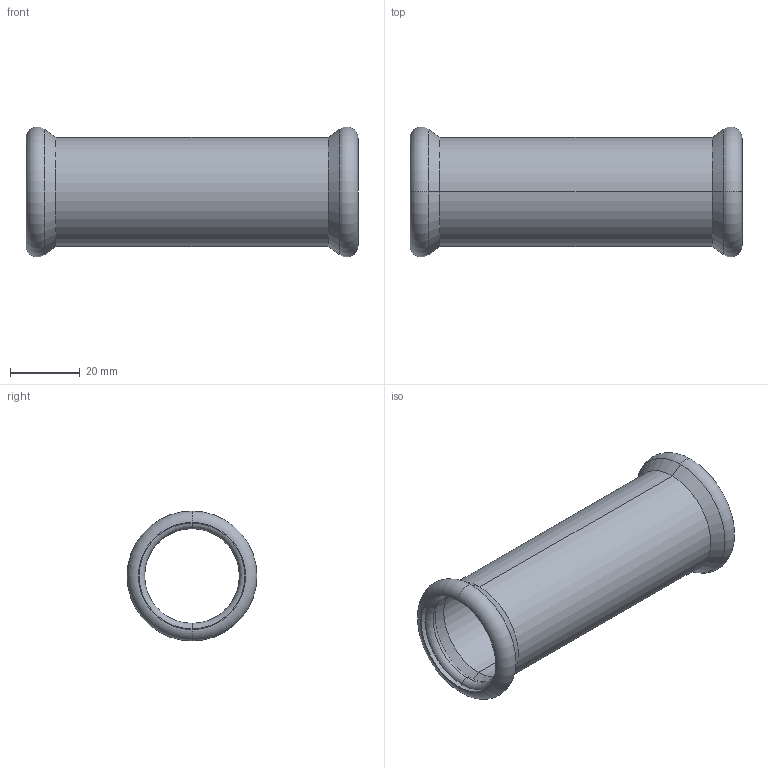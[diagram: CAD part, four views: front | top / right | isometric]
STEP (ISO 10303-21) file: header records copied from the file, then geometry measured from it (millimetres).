
FILE_DESCRIPTION (( 'STEP AP214' ), '1' );
FILE_NAME ('S28000K.STEP', '2025-08-17T07:31:00', ( '' ), ( '' ), 'SwSTEP 2.0', 'SolidWorks 2020', '' );
FILE_SCHEMA (( 'AUTOMOTIVE_DESIGN' ));
Length unit declared in the file: millimetre
Products named in the file (1): S28000K
Bounding box: 95 x 37.19 x 37.19 mm (x, y, z)
Volume: 16065 mm3; surface area: 19693.6 mm2
Topology: 1 solids, 1 shells, 32 faces, 64 edges, 36 vertices
Faces by surface type: torus 12, cone 8, cylinder 8, plane 4
Entity records: 1138 total; most frequent: DIRECTION 178, CARTESIAN_POINT 133, ORIENTED_EDGE 128, AXIS2_PLACEMENT_3D 81, EDGE_CURVE 64, CIRCLE 48, EDGE_LOOP 36, VERTEX_POINT 36
